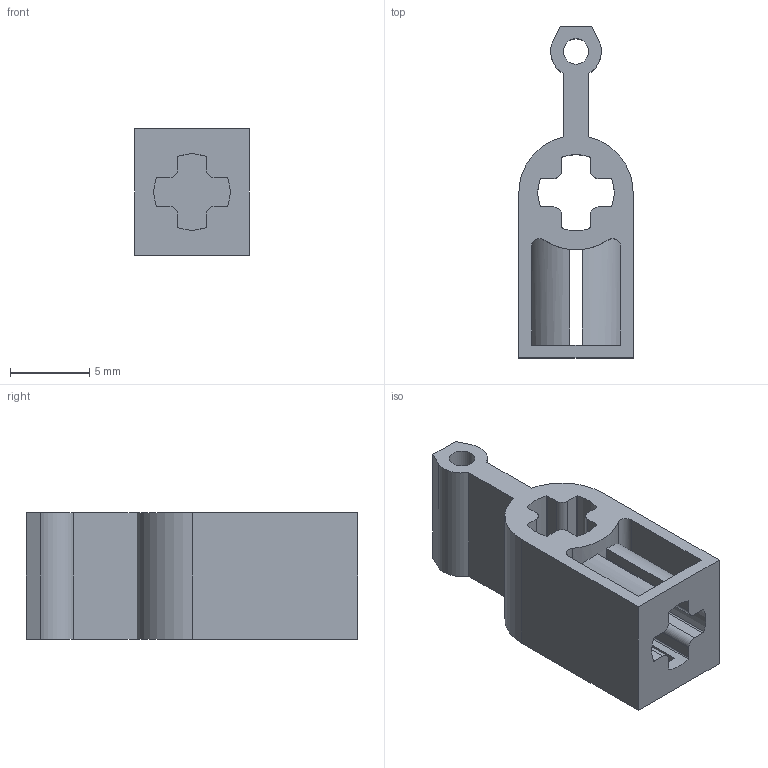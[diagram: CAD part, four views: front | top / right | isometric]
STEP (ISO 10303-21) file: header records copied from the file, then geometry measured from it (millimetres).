
FILE_DESCRIPTION(/* description */ ('Unknown'),/* implementation_level */ '2;1');
FILE_NAME(/* name */ 'Red_4270473_AVV',/* time_stamp */ '2025-07-22T00:03:22+02:00',/* author */ ('Unknown'),/* organization */ ('Unknown'),/* preprocessor_version */ 'ST-DEVELOPER v19.4',/* originating_system */ 'Solid Edge',/* authorisation */ 'Unknown');
FILE_SCHEMA (('AUTOMOTIVE_DESIGN {1 0 10303 214 3 1 1}'));
Length unit declared in the file: millimetre
Products named in the file (1): Red_4270473_AVV
Bounding box: 7.2 x 20.9 x 8 mm (x, y, z)
Volume: 534.5 mm3; surface area: 1053.6 mm2
Topology: 1 solids, 1 shells, 84 faces, 243 edges, 162 vertices
Faces by surface type: cylinder 47, plane 37
Full cylindrical faces by diameter (mm): 1.6 x1
Entity records: 2856 total; most frequent: CARTESIAN_POINT 531, DIRECTION 488, ORIENTED_EDGE 484, EDGE_CURVE 242, AXIS2_PLACEMENT_3D 171, VERTEX_POINT 162, LINE 146, VECTOR 146
